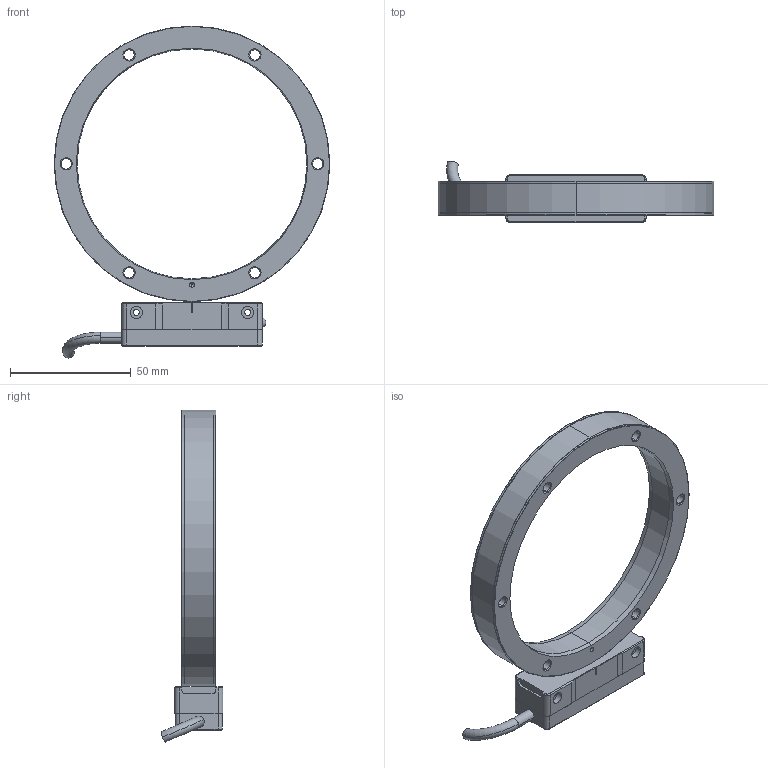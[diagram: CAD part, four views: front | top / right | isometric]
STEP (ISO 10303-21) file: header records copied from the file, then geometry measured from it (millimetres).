
FILE_DESCRIPTION (( 'STEP AP214' ), '1' );
FILE_NAME ('DHRx_SAR114_exposed.STEP', '2024-02-02T13:47:20', ( '' ), ( '' ), 'SwSTEP 2.0', 'SolidWorks 2022', '' );
FILE_SCHEMA (( 'AUTOMOTIVE_DESIGN' ));
Length unit declared in the file: millimetre
Products named in the file (1): DHRx_SAR114_exposed
Bounding box: 114 x 25.55 x 137.25 mm (x, y, z)
Volume: 62633 mm3; surface area: 22537.3 mm2
Topology: 2 solids, 2 shells, 2122 faces, 5774 edges, 3805 vertices
Faces by surface type: plane 1721, bspline 186, cylinder 139, cone 48, torus 26, sphere 2
Entity records: 96903 total; most frequent: CARTESIAN_POINT 20824, ORIENTED_EDGE 11518, DIRECTION 9676, EDGE_CURVE 5759, VECTOR 4964, LINE 4964, VERTEX_POINT 3804, AXIS2_PLACEMENT_3D 2356
